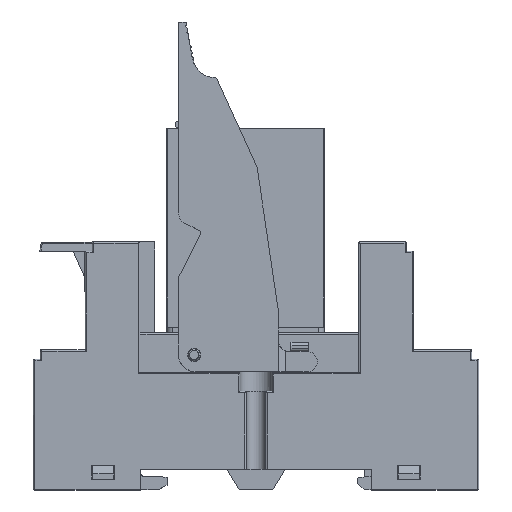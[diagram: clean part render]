
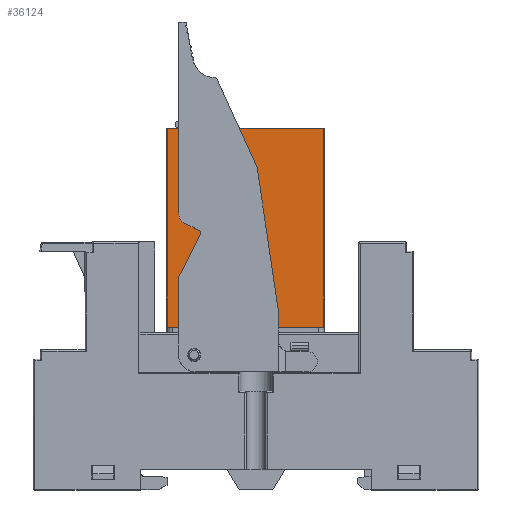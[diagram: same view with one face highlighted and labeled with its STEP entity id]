
A CAD part, top view. The second image highlights one B-rep face of the part: STEP entity #36124.
In plain terms, the highlighted planar face has unit normal (0, 0, 1).
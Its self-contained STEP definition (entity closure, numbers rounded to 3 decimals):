
#3380 = CARTESIAN_POINT ( 'NONE',  ( 13.8, 34.966, 10.449 ) ) ;
#3787 = EDGE_LOOP ( 'NONE', ( #59015, #12799, #79697, #26973 ) ) ;
#3816 = FACE_BOUND ( 'NONE', #15096, .T. ) ;
#4833 = ORIENTED_EDGE ( 'NONE', *, *, #67747, .F. ) ;
#7359 = VECTOR ( 'NONE', #43268, 1000. ) ;
#11464 = LINE ( 'NONE', #51340, #19990 ) ;
#12469 = CARTESIAN_POINT ( 'NONE',  ( 13.6, 34.966, 10.449 ) ) ;
#12799 = ORIENTED_EDGE ( 'NONE', *, *, #30141, .F. ) ;
#13263 = EDGE_CURVE ( 'NONE', #58430, #74054, #29608, .T. ) ;
#15096 = EDGE_LOOP ( 'NONE', ( #76382, #4833, #39312, #63924 ) ) ;
#15448 = VERTEX_POINT ( 'NONE', #45646 ) ;
#19990 = VECTOR ( 'NONE', #37924, 1000. ) ;
#20802 = LINE ( 'NONE', #27740, #72112 ) ;
#21150 = LINE ( 'NONE', #62275, #85484 ) ;
#24554 = VERTEX_POINT ( 'NONE', #68738 ) ;
#25058 = LINE ( 'NONE', #12469, #78887 ) ;
#25213 = CARTESIAN_POINT ( 'NONE',  ( 2.25, 4.966, 10.449 ) ) ;
#25979 = EDGE_CURVE ( 'NONE', #35269, #36375, #11464, .T. ) ;
#26329 = DIRECTION ( 'NONE',  ( 1., 0., 0. ) ) ;
#26973 = ORIENTED_EDGE ( 'NONE', *, *, #38470, .T. ) ;
#27740 = CARTESIAN_POINT ( 'NONE',  ( 13.8, 2.466, 10.449 ) ) ;
#28044 = CARTESIAN_POINT ( 'NONE',  ( -13., 34.966, 10.449 ) ) ;
#28452 = CARTESIAN_POINT ( 'NONE',  ( -13., 0.966, 10.449 ) ) ;
#29047 = CARTESIAN_POINT ( 'NONE',  ( 13.6, 34.966, 10.449 ) ) ;
#29608 = LINE ( 'NONE', #36552, #56486 ) ;
#30141 = EDGE_CURVE ( 'NONE', #74054, #62563, #21150, .T. ) ;
#35269 = VERTEX_POINT ( 'NONE', #51754 ) ;
#35460 = DIRECTION ( 'NONE',  ( 0., 0., -1. ) ) ;
#36124 = ADVANCED_FACE ( 'NONE', ( #49737, #3816 ), #69688, .F. ) ;
#36375 = VERTEX_POINT ( 'NONE', #74390 ) ;
#36552 = CARTESIAN_POINT ( 'NONE',  ( -13., 34.966, 10.449 ) ) ;
#37376 = EDGE_CURVE ( 'NONE', #15448, #62483, #69272, .T. ) ;
#37924 = DIRECTION ( 'NONE',  ( 0., -1., 0. ) ) ;
#38470 = EDGE_CURVE ( 'NONE', #58430, #24554, #44576, .T. ) ;
#39312 = ORIENTED_EDGE ( 'NONE', *, *, #25979, .F. ) ;
#42401 = CARTESIAN_POINT ( 'NONE',  ( 2.25, 34.966, 10.449 ) ) ;
#43268 = DIRECTION ( 'NONE',  ( -1., 0., 0. ) ) ;
#44576 = LINE ( 'NONE', #66189, #46494 ) ;
#45646 = CARTESIAN_POINT ( 'NONE',  ( 2.25, 2.466, 10.449 ) ) ;
#46494 = VECTOR ( 'NONE', #26329, 1000. ) ;
#47660 = DIRECTION ( 'NONE',  ( 1., 0., 0. ) ) ;
#47721 = VECTOR ( 'NONE', #83155, 1000. ) ;
#49299 = DIRECTION ( 'NONE',  ( -1., 0., 0. ) ) ;
#49737 = FACE_OUTER_BOUND ( 'NONE', #3787, .T. ) ;
#50179 = CARTESIAN_POINT ( 'NONE',  ( 13.8, 4.966, 10.449 ) ) ;
#51069 = EDGE_CURVE ( 'NONE', #62483, #35269, #82716, .T. ) ;
#51340 = CARTESIAN_POINT ( 'NONE',  ( -1.65, 34.966, 10.449 ) ) ;
#51754 = CARTESIAN_POINT ( 'NONE',  ( -1.65, 4.966, 10.449 ) ) ;
#56486 = VECTOR ( 'NONE', #82509, 1000. ) ;
#57145 = DIRECTION ( 'NONE',  ( 0., -1., 0. ) ) ;
#58430 = VERTEX_POINT ( 'NONE', #28452 ) ;
#59015 = ORIENTED_EDGE ( 'NONE', *, *, #61267, .F. ) ;
#61267 = EDGE_CURVE ( 'NONE', #62563, #24554, #25058, .T. ) ;
#62275 = CARTESIAN_POINT ( 'NONE',  ( -13.2, 34.966, 10.449 ) ) ;
#62483 = VERTEX_POINT ( 'NONE', #25213 ) ;
#62563 = VERTEX_POINT ( 'NONE', #29047 ) ;
#63924 = ORIENTED_EDGE ( 'NONE', *, *, #51069, .F. ) ;
#66189 = CARTESIAN_POINT ( 'NONE',  ( -13.2, 0.966, 10.449 ) ) ;
#67747 = EDGE_CURVE ( 'NONE', #36375, #15448, #20802, .T. ) ;
#68738 = CARTESIAN_POINT ( 'NONE',  ( 13.6, 0.966, 10.449 ) ) ;
#69272 = LINE ( 'NONE', #42401, #47721 ) ;
#69688 = PLANE ( 'NONE',  #72370 ) ;
#72112 = VECTOR ( 'NONE', #47660, 1000. ) ;
#72370 = AXIS2_PLACEMENT_3D ( 'NONE', #3380, #35460, #49299 ) ;
#74054 = VERTEX_POINT ( 'NONE', #28044 ) ;
#74390 = CARTESIAN_POINT ( 'NONE',  ( -1.65, 2.466, 10.449 ) ) ;
#76382 = ORIENTED_EDGE ( 'NONE', *, *, #37376, .F. ) ;
#78887 = VECTOR ( 'NONE', #57145, 1000. ) ;
#79697 = ORIENTED_EDGE ( 'NONE', *, *, #13263, .F. ) ;
#81400 = DIRECTION ( 'NONE',  ( 1., 0., 0. ) ) ;
#82509 = DIRECTION ( 'NONE',  ( 0., 1., 0. ) ) ;
#82716 = LINE ( 'NONE', #50179, #7359 ) ;
#83155 = DIRECTION ( 'NONE',  ( 0., 1., 0. ) ) ;
#85484 = VECTOR ( 'NONE', #81400, 1000. ) ;
